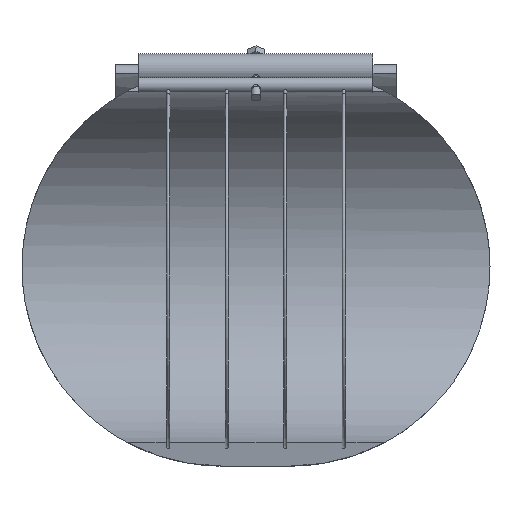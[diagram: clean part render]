
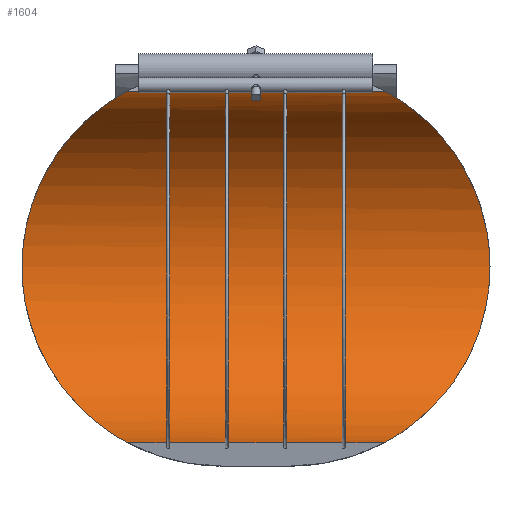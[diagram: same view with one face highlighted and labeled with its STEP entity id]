
A CAD part, front view. The second image highlights one B-rep face of the part: STEP entity #1604.
In plain terms, the highlighted cylindrical face has radius 112.5 mm (diameter 225 mm), a partial arc.
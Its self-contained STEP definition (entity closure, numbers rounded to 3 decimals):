
#151=FACE_OUTER_BOUND('',#245,.T.);
#245=EDGE_LOOP('',(#1347,#1348,#1349,#1350,#1351,#1352,#1353,#1354,#1355,
#1356));
#332=B_SPLINE_CURVE_WITH_KNOTS('',3,(#3347,#3348,#3349,#3350,#3351,#3352,
#3353,#3354,#3355,#3356,#3357,#3358,#3359,#3360,#3361,#3362,#3363,#3364,
#3365,#3366),.UNSPECIFIED.,.F.,.F.,(4,2,2,2,2,2,2,2,2,4),(39.786,
40.18,41.402,42.623,45.067,47.51,
49.784,52.058,54.331,56.605),
 .UNSPECIFIED.);
#333=B_SPLINE_CURVE_WITH_KNOTS('',3,(#3367,#3368,#3369,#3370,#3371,#3372,
#3373,#3374,#3375,#3376,#3377,#3378,#3379,#3380,#3381,#3382,#3383,#3384,
#3385,#3386),.UNSPECIFIED.,.F.,.F.,(4,2,2,2,2,2,2,2,2,4),(56.605,
58.879,61.153,63.426,65.7,68.143,
70.587,71.809,73.03,73.424),
 .UNSPECIFIED.);
#338=B_SPLINE_CURVE_WITH_KNOTS('',3,(#3498,#3499,#3500,#3501,#3502,#3503,
#3504,#3505,#3506,#3507,#3508,#3509,#3510,#3511,#3512,#3513,#3514,#3515,
#3516,#3517),.UNSPECIFIED.,.F.,.F.,(4,2,2,2,2,2,2,2,2,4),(2.049,
2.443,3.665,4.887,7.33,9.773,
12.047,14.321,16.595,18.868),
 .UNSPECIFIED.);
#339=B_SPLINE_CURVE_WITH_KNOTS('',3,(#3519,#3520,#3521,#3522,#3523,#3524,
#3525,#3526,#3527,#3528,#3529,#3530,#3531,#3532,#3533,#3534,#3535,#3536,
#3537,#3538),.UNSPECIFIED.,.F.,.F.,(4,2,2,2,2,2,2,2,2,4),(18.868,
21.142,23.416,25.69,27.963,30.407,
32.85,34.072,35.293,35.688),
 .UNSPECIFIED.);
#469=LINE('',#2636,#542);
#470=LINE('',#2639,#543);
#471=LINE('',#2642,#544);
#472=LINE('',#2644,#545);
#473=LINE('',#2645,#546);
#517=LINE('',#3580,#590);
#542=VECTOR('',#1901,10.);
#543=VECTOR('',#1904,10.);
#544=VECTOR('',#1907,10.);
#545=VECTOR('',#1910,10.);
#546=VECTOR('',#1911,10.);
#590=VECTOR('',#2163,10.);
#631=VERTEX_POINT('',#2624);
#633=VERTEX_POINT('',#2629);
#635=VERTEX_POINT('',#2633);
#636=VERTEX_POINT('',#2635);
#637=VERTEX_POINT('',#2638);
#638=VERTEX_POINT('',#2641);
#714=VERTEX_POINT('',#3344);
#715=VERTEX_POINT('',#3346);
#720=VERTEX_POINT('',#3497);
#721=VERTEX_POINT('',#3518);
#809=EDGE_CURVE('',#636,#635,#469,.T.);
#811=EDGE_CURVE('',#637,#636,#470,.T.);
#813=EDGE_CURVE('',#638,#637,#471,.T.);
#815=EDGE_CURVE('',#631,#638,#472,.T.);
#816=EDGE_CURVE('',#633,#631,#473,.T.);
#940=EDGE_CURVE('',#714,#715,#332,.T.);
#941=EDGE_CURVE('',#715,#635,#333,.T.);
#946=EDGE_CURVE('',#633,#720,#338,.T.);
#947=EDGE_CURVE('',#720,#721,#339,.T.);
#951=EDGE_CURVE('',#714,#721,#517,.T.);
#1347=ORIENTED_EDGE('',*,*,#946,.F.);
#1348=ORIENTED_EDGE('',*,*,#816,.T.);
#1349=ORIENTED_EDGE('',*,*,#815,.T.);
#1350=ORIENTED_EDGE('',*,*,#813,.T.);
#1351=ORIENTED_EDGE('',*,*,#811,.T.);
#1352=ORIENTED_EDGE('',*,*,#809,.T.);
#1353=ORIENTED_EDGE('',*,*,#941,.F.);
#1354=ORIENTED_EDGE('',*,*,#940,.F.);
#1355=ORIENTED_EDGE('',*,*,#951,.T.);
#1356=ORIENTED_EDGE('',*,*,#947,.F.);
#1533=CYLINDRICAL_SURFACE('',#1776,112.5);
#1604=ADVANCED_FACE('',(#151),#1533,.F.);
#1776=AXIS2_PLACEMENT_3D('',#3579,#2161,#2162);
#1901=DIRECTION('',(1.,0.,0.));
#1904=DIRECTION('',(1.,0.,0.));
#1907=DIRECTION('',(1.,0.,0.));
#1910=DIRECTION('',(1.,0.,0.));
#1911=DIRECTION('',(1.,0.,0.));
#2161=DIRECTION('center_axis',(1.,0.,0.));
#2162=DIRECTION('ref_axis',(0.,1.,0.));
#2163=DIRECTION('',(-1.,0.,0.));
#2624=CARTESIAN_POINT('',(-55.313,19.535,-110.791));
#2629=CARTESIAN_POINT('',(-81.025,19.535,-110.791));
#2633=CARTESIAN_POINT('',(81.025,19.535,-110.791));
#2635=CARTESIAN_POINT('',(55.313,19.535,-110.791));
#2636=CARTESIAN_POINT('',(0.,19.535,-110.791));
#2638=CARTESIAN_POINT('',(18.438,19.535,-110.791));
#2639=CARTESIAN_POINT('',(0.,19.535,-110.791));
#2641=CARTESIAN_POINT('',(-18.438,19.535,-110.791));
#2642=CARTESIAN_POINT('',(0.,19.535,-110.791));
#2644=CARTESIAN_POINT('',(0.,19.535,-110.791));
#2645=CARTESIAN_POINT('',(0.,19.535,-110.791));
#3344=CARTESIAN_POINT('',(81.025,19.535,110.791));
#3346=CARTESIAN_POINT('',(147.5,112.5,0.));
#3347=CARTESIAN_POINT('Ctrl Pts',(81.025,19.535,110.791));
#3348=CARTESIAN_POINT('Ctrl Pts',(81.421,20.733,110.58));
#3349=CARTESIAN_POINT('Ctrl Pts',(81.847,21.921,110.35));
#3350=CARTESIAN_POINT('Ctrl Pts',(83.696,26.753,109.337));
#3351=CARTESIAN_POINT('Ctrl Pts',(85.342,30.319,108.399));
#3352=CARTESIAN_POINT('Ctrl Pts',(88.962,37.301,106.199));
#3353=CARTESIAN_POINT('Ctrl Pts',(90.936,40.717,104.936));
#3354=CARTESIAN_POINT('Ctrl Pts',(97.148,50.738,100.671));
#3355=CARTESIAN_POINT('Ctrl Pts',(101.66,57.11,97.193));
#3356=CARTESIAN_POINT('Ctrl Pts',(110.587,69.026,89.126));
#3357=CARTESIAN_POINT('Ctrl Pts',(115.005,74.566,84.533));
#3358=CARTESIAN_POINT('Ctrl Pts',(122.884,84.187,74.912));
#3359=CARTESIAN_POINT('Ctrl Pts',(126.663,88.669,69.607));
#3360=CARTESIAN_POINT('Ctrl Pts',(133.598,96.761,57.833));
#3361=CARTESIAN_POINT('Ctrl Pts',(136.751,100.371,51.363));
#3362=CARTESIAN_POINT('Ctrl Pts',(141.967,106.298,37.592));
#3363=CARTESIAN_POINT('Ctrl Pts',(144.034,108.62,30.274));
#3364=CARTESIAN_POINT('Ctrl Pts',(146.802,111.722,15.268));
#3365=CARTESIAN_POINT('Ctrl Pts',(147.5,112.5,7.579));
#3366=CARTESIAN_POINT('Ctrl Pts',(147.5,112.5,0.));
#3367=CARTESIAN_POINT('Ctrl Pts',(147.5,112.5,0.));
#3368=CARTESIAN_POINT('Ctrl Pts',(147.5,112.5,-7.579));
#3369=CARTESIAN_POINT('Ctrl Pts',(146.802,111.722,-15.268));
#3370=CARTESIAN_POINT('Ctrl Pts',(144.034,108.62,-30.274));
#3371=CARTESIAN_POINT('Ctrl Pts',(141.967,106.298,-37.592));
#3372=CARTESIAN_POINT('Ctrl Pts',(136.751,100.371,-51.363));
#3373=CARTESIAN_POINT('Ctrl Pts',(133.598,96.761,-57.833));
#3374=CARTESIAN_POINT('Ctrl Pts',(126.663,88.669,-69.607));
#3375=CARTESIAN_POINT('Ctrl Pts',(122.884,84.187,-74.912));
#3376=CARTESIAN_POINT('Ctrl Pts',(115.005,74.566,-84.533));
#3377=CARTESIAN_POINT('Ctrl Pts',(110.587,69.026,-89.126));
#3378=CARTESIAN_POINT('Ctrl Pts',(101.66,57.11,-97.193));
#3379=CARTESIAN_POINT('Ctrl Pts',(97.148,50.738,-100.671));
#3380=CARTESIAN_POINT('Ctrl Pts',(90.936,40.717,-104.936));
#3381=CARTESIAN_POINT('Ctrl Pts',(88.962,37.301,-106.199));
#3382=CARTESIAN_POINT('Ctrl Pts',(85.342,30.319,-108.399));
#3383=CARTESIAN_POINT('Ctrl Pts',(83.696,26.753,-109.337));
#3384=CARTESIAN_POINT('Ctrl Pts',(81.847,21.921,-110.35));
#3385=CARTESIAN_POINT('Ctrl Pts',(81.421,20.733,-110.58));
#3386=CARTESIAN_POINT('Ctrl Pts',(81.025,19.535,-110.791));
#3497=CARTESIAN_POINT('',(-147.5,112.5,0.));
#3498=CARTESIAN_POINT('Ctrl Pts',(-81.025,19.535,-110.791));
#3499=CARTESIAN_POINT('Ctrl Pts',(-81.421,20.733,-110.58));
#3500=CARTESIAN_POINT('Ctrl Pts',(-81.847,21.921,-110.35));
#3501=CARTESIAN_POINT('Ctrl Pts',(-83.696,26.753,-109.337));
#3502=CARTESIAN_POINT('Ctrl Pts',(-85.342,30.319,-108.399));
#3503=CARTESIAN_POINT('Ctrl Pts',(-88.962,37.301,-106.199));
#3504=CARTESIAN_POINT('Ctrl Pts',(-90.936,40.717,-104.936));
#3505=CARTESIAN_POINT('Ctrl Pts',(-97.148,50.738,-100.671));
#3506=CARTESIAN_POINT('Ctrl Pts',(-101.66,57.11,-97.193));
#3507=CARTESIAN_POINT('Ctrl Pts',(-110.587,69.026,-89.126));
#3508=CARTESIAN_POINT('Ctrl Pts',(-115.005,74.566,-84.533));
#3509=CARTESIAN_POINT('Ctrl Pts',(-122.884,84.187,-74.912));
#3510=CARTESIAN_POINT('Ctrl Pts',(-126.663,88.669,-69.607));
#3511=CARTESIAN_POINT('Ctrl Pts',(-133.598,96.761,-57.833));
#3512=CARTESIAN_POINT('Ctrl Pts',(-136.751,100.371,-51.363));
#3513=CARTESIAN_POINT('Ctrl Pts',(-141.967,106.298,-37.592));
#3514=CARTESIAN_POINT('Ctrl Pts',(-144.034,108.62,-30.274));
#3515=CARTESIAN_POINT('Ctrl Pts',(-146.802,111.722,-15.268));
#3516=CARTESIAN_POINT('Ctrl Pts',(-147.5,112.5,-7.579));
#3517=CARTESIAN_POINT('Ctrl Pts',(-147.5,112.5,0.));
#3518=CARTESIAN_POINT('',(-81.025,19.535,110.791));
#3519=CARTESIAN_POINT('Ctrl Pts',(-147.5,112.5,0.));
#3520=CARTESIAN_POINT('Ctrl Pts',(-147.5,112.5,7.579));
#3521=CARTESIAN_POINT('Ctrl Pts',(-146.802,111.722,15.268));
#3522=CARTESIAN_POINT('Ctrl Pts',(-144.034,108.62,30.274));
#3523=CARTESIAN_POINT('Ctrl Pts',(-141.967,106.298,37.592));
#3524=CARTESIAN_POINT('Ctrl Pts',(-136.751,100.371,51.363));
#3525=CARTESIAN_POINT('Ctrl Pts',(-133.598,96.761,57.833));
#3526=CARTESIAN_POINT('Ctrl Pts',(-126.663,88.669,69.607));
#3527=CARTESIAN_POINT('Ctrl Pts',(-122.884,84.187,74.912));
#3528=CARTESIAN_POINT('Ctrl Pts',(-115.005,74.566,84.533));
#3529=CARTESIAN_POINT('Ctrl Pts',(-110.587,69.026,89.126));
#3530=CARTESIAN_POINT('Ctrl Pts',(-101.66,57.11,97.193));
#3531=CARTESIAN_POINT('Ctrl Pts',(-97.148,50.738,100.671));
#3532=CARTESIAN_POINT('Ctrl Pts',(-90.936,40.717,104.936));
#3533=CARTESIAN_POINT('Ctrl Pts',(-88.962,37.301,106.199));
#3534=CARTESIAN_POINT('Ctrl Pts',(-85.342,30.319,108.399));
#3535=CARTESIAN_POINT('Ctrl Pts',(-83.696,26.753,109.337));
#3536=CARTESIAN_POINT('Ctrl Pts',(-81.847,21.921,110.35));
#3537=CARTESIAN_POINT('Ctrl Pts',(-81.421,20.733,110.58));
#3538=CARTESIAN_POINT('Ctrl Pts',(-81.025,19.535,110.791));
#3579=CARTESIAN_POINT('Origin',(0.,0.,0.));
#3580=CARTESIAN_POINT('',(0.,19.535,110.791));
